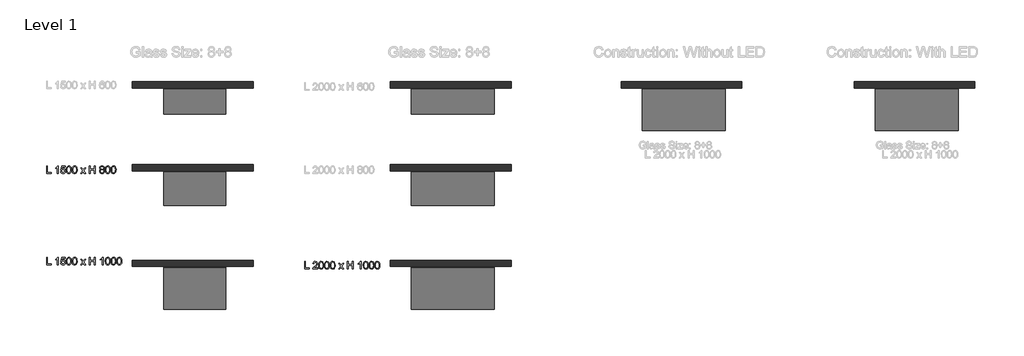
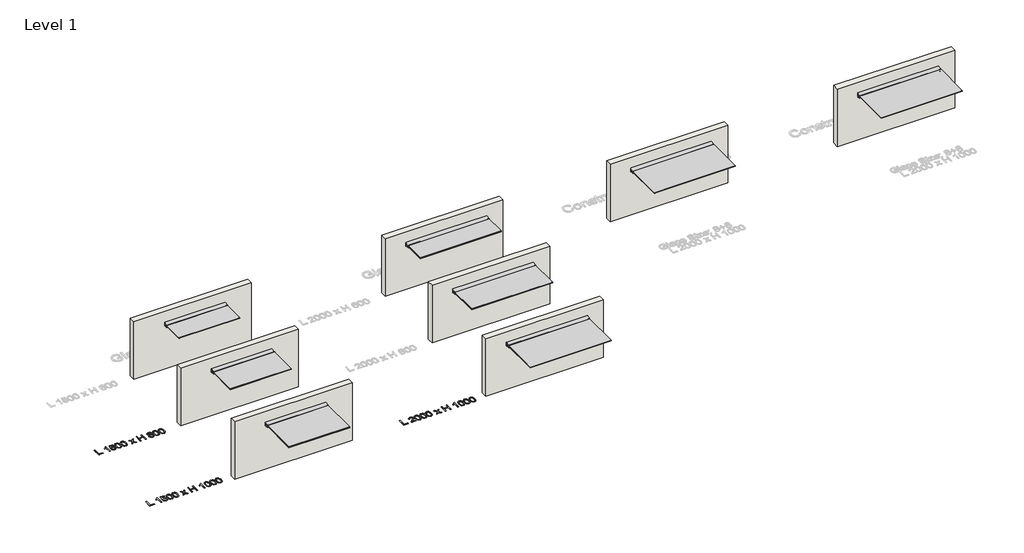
# One storey, part 1 of 6: 11 proxies, 8 walls.
"""IFC4 building model written with IfcOpenShell, lengths in millimetres."""

from ifc_helpers import new_model, si_unit, origin, origin_with_axes, place, context, project, spatial, polyline, outline, extrude, transform, mapped, element, save
from components import glass_8_8_01085232, glass_8_8_e84e2e7e, glass_8_8_7e68fb23, glass_8_8_ba4766a3, glass_8_8_bdc9742d, glass_8_8_5efa4668, glass_8_8_led_c3ab43e4

model = new_model("IFC4")

# Units and contexts
model_context = context("Model", 3, world=origin())
ifc_project = project(units=[si_unit("LENGTHUNIT", "METRE", prefix="MILLI")], contexts=[model_context])

# Site, building, storey
site = spatial("IfcSite", under=ifc_project)
building = spatial("IfcBuilding", under=site)
storey = spatial("IfcBuildingStorey", under=building, Name="Level 1", Elevation=0.0)

# Proxies
placement = place(None, origin())
element("IfcBuildingElementProxy", 1, Name="600mm Arial 3", ObjectType="600mm Arial 3", at=placement, inside=storey, context=model_context, shape_type="SweptSolid", body=[
    extrude(outline(polyline([(2272.1620309, -1499.2688788), (2272.1620309, -1318.4475205), (2294.7647007, -1318.4475205), (2294.7647007, -1476.666209), (2385.1753798, -1476.666209), (2385.1753798, -1499.2688788), (2272.1620309, -1499.2688788)])), origin_with_axes(), (0.0, 0.0, 1.0), 5.0),
    extrude(outline(polyline([(2557.5207369, -1499.2688788), (2534.9180672, -1499.2688788), (2534.9180672, -1358.3553594), (2513.507335, -1373.6077469), (2489.7127276, -1385.0194464), (2489.7127276, -1363.6528601), (2522.8441801, -1342.507003), (2542.9526099, -1318.4475205), (2557.5207369, -1318.4475205), (2557.5207369, -1499.2688788)])), origin_with_axes(), (0.0, 0.0, 1.0), 5.0),
    extrude(outline(polyline([(2611.2020777, -1451.2382055), (2633.8047475, -1448.4128718), (2637.9544564, -1461.9821992), (2645.194374, -1471.6998021), (2655.4913911, -1477.5436076), (2668.8123981, -1479.4915427), (2685.0139212, -1476.7820918), (2697.154027, -1468.6537392), (2704.7360749, -1456.0445838), (2707.2634243, -1439.8927248), (2704.8961036, -1424.6844831), (2697.7941417, -1413.0520544), (2685.9023562, -1405.6686628), (2669.1655648, -1403.2075322), (2649.32201, -1407.1365119), (2636.6300812, -1417.3342008), (2614.0274114, -1414.5088671), (2633.8047475, -1321.2728543), (2721.3900929, -1321.2728543), (2721.3900929, -1343.875524), (2652.081125, -1343.875524), (2642.3690403, -1393.6720309), (2658.5153811, -1383.8716546), (2675.434274, -1380.6048624), (2696.5580582, -1384.6552432), (2714.1060294, -1396.8063855), (2725.9260779, -1415.3255651), (2729.866094, -1438.4800579), (2726.3233904, -1461.0827277), (2715.6952796, -1480.4186054), (2695.3440476, -1496.6753107), (2668.7241064, -1502.0942125), (2646.5242674, -1498.6122094), (2628.8383405, -1488.1662002), (2616.7147894, -1471.9701953), (2611.2020777, -1451.2382055)])), origin_with_axes(), (0.0, 0.0, 1.0), 5.0),
    extrude(outline(polyline([(2749.6434301, -1410.3150124), (2751.3044173, -1381.3718964), (2756.2873789, -1358.2891406), (2764.5426509, -1340.7135783), (2776.0205692, -1328.2920427), (2790.8039071, -1320.9086511), (2808.9754383, -1318.4475205), (2835.3746503, -1324.2747713), (2845.8041048, -1331.3877697), (2853.6068819, -1341.0722632), (2864.2018834, -1367.8246419), (2868.3074465, -1410.3150124), (2866.6630139, -1439.0925814), (2861.7297164, -1462.1201549), (2853.5241085, -1479.7122719), (2842.0627449, -1492.1834716), (2827.2462976, -1499.6165273), (2808.9754383, -1502.0942125), (2785.4898517, -1497.7899932), (2767.6549326, -1484.8773351), (2759.7749002, -1471.2611028), (2754.1463057, -1454.2953049), (2749.6434301, -1410.3150124)]), holes=[polyline([(2772.2460999, -1410.2708665), (2774.8948502, -1445.824822), (2782.8411013, -1466.4023014), (2794.6721863, -1476.2192324), (2808.9754383, -1479.4915427), (2823.2786903, -1476.2081959), (2835.1097752, -1466.3581555), (2843.0560263, -1445.7696397), (2845.7047767, -1410.2708665), (2843.144318, -1375.5170544), (2835.4629419, -1354.7795464), (2823.6539299, -1344.4825293), (2808.7105632, -1341.0501903), (2794.5618217, -1344.0741803), (2783.1942681, -1353.1461503), (2774.9831419, -1375.1749242), (2772.2460999, -1410.2708665)])]), origin_with_axes(), (0.0, 0.0, 1.0), 5.0),
    extrude(outline(polyline([(2888.0847825, -1410.3150124), (2889.7457697, -1381.3718964), (2894.7287314, -1358.2891406), (2902.9840033, -1340.7135783), (2914.4619216, -1328.2920427), (2929.2452596, -1320.9086511), (2947.4167907, -1318.4475205), (2973.8160027, -1324.2747713), (2984.2454572, -1331.3877697), (2992.0482344, -1341.0722632), (3002.6432358, -1367.8246419), (3006.7487989, -1410.3150124), (3005.1043664, -1439.0925814), (3000.1710688, -1462.1201549), (2991.9654609, -1479.7122719), (2980.5040974, -1492.1834716), (2965.68765, -1499.6165273), (2947.4167907, -1502.0942125), (2923.9312041, -1497.7899932), (2906.096285, -1484.8773351), (2898.2162527, -1471.2611028), (2892.5876581, -1454.2953049), (2888.0847825, -1410.3150124)]), holes=[polyline([(2910.6874523, -1410.2708665), (2913.3362027, -1445.824822), (2921.2824538, -1466.4023014), (2933.1135387, -1476.2192324), (2947.4167907, -1479.4915427), (2961.7200427, -1476.2081959), (2973.5511276, -1466.3581555), (2981.4973787, -1445.7696397), (2984.1461291, -1410.2708665), (2981.5856704, -1375.5170544), (2973.9042944, -1354.7795464), (2962.0952823, -1344.4825293), (2947.1519157, -1341.0501903), (2933.0031741, -1344.0741803), (2921.6356205, -1353.1461503), (2913.4244944, -1375.1749242), (2910.6874523, -1410.2708665)])]), origin_with_axes(), (0.0, 0.0, 1.0), 5.0),
    extrude(outline(polyline([(3088.6834769, -1499.2688788), (3136.9790252, -1432.4762238), (3091.5088106, -1366.4781938), (3118.614356, -1366.4781938), (3140.5548382, -1398.307344), (3150.8408188, -1413.2727836), (3159.7582783, -1401.0002402), (3184.7448234, -1366.4781938), (3211.9386605, -1366.4781938), (3164.1728623, -1432.5203696), (3210.1728269, -1499.2688788), (3183.0231357, -1499.2688788), (3155.2995485, -1459.0961649), (3150.2669228, -1451.7238097), (3115.8773139, -1499.2688788), (3088.6834769, -1499.2688788)])), origin_with_axes(), (0.0, 0.0, 1.0), 5.0),
    extrude(outline(polyline([(3303.4088398, -1499.2688788), (3303.4088398, -1318.4475205), (3326.0115096, -1318.4475205), (3326.0115096, -1391.9061973), (3422.0728562, -1391.9061973), (3422.0728562, -1318.4475205), (3444.6755259, -1318.4475205), (3444.6755259, -1499.2688788), (3422.0728562, -1499.2688788), (3422.0728562, -1414.5088671), (3326.0115096, -1414.5088671), (3326.0115096, -1499.2688788), (3303.4088398, -1499.2688788)])), origin_with_axes(), (0.0, 0.0, 1.0), 5.0),
    extrude(outline(polyline([(3579.3203362, -1399.6758651), (3567.218858, -1393.7161767), (3558.7263021, -1385.6374881), (3553.7102311, -1375.6053461), (3552.0382074, -1363.7852976), (3555.6802392, -1346.1159254), (3566.6063344, -1331.514689), (3583.5914461, -1321.7143126), (3605.4105273, -1318.4475205), (3627.3620459, -1321.7915679), (3644.5678868, -1331.8237099), (3655.6926384, -1346.6567119), (3659.4008889, -1364.4033394), (3657.7509381, -1375.84263), (3652.8010859, -1385.7037069), (3644.4961499, -1393.7327314), (3632.7809477, -1399.6758651), (3646.6924054, -1406.8440457), (3656.8183573, -1417.4004196), (3662.9932566, -1430.8373095), (3665.0515563, -1446.6470382), (3660.9680662, -1468.2564266), (3648.7175958, -1486.1134187), (3629.8011036, -1498.0990141), (3605.7195482, -1502.0942125), (3581.6379928, -1498.0824594), (3562.7215006, -1486.0471999), (3550.4710301, -1468.0191427), (3546.38754, -1446.0289965), (3548.5286132, -1429.6067442), (3554.9518328, -1416.0981173), (3565.3261051, -1405.9666472), (3579.3203362, -1399.6758651)]), holes=[polyline([(3574.6408772, -1364.4474852), (3576.6439947, -1374.3140803), (3582.6533471, -1382.1941127), (3592.492351, -1387.3591759), (3605.9844232, -1389.0808636), (3619.1619563, -1387.3702123), (3628.851968, -1382.2382585), (3634.8116563, -1374.6231012), (3636.7982191, -1365.4628395), (3634.7454376, -1355.9549294), (3628.587093, -1348.0914517), (3618.7646437, -1342.8105057), (3605.7195482, -1341.0501903), (3592.5916792, -1342.7718781), (3582.7857846, -1347.9369413), (3576.677104, -1355.5079527), (3574.6408772, -1364.4474852)]), polyline([(3568.9902098, -1445.2343713), (3572.764679, -1462.2525924), (3577.9904428, -1469.5532106), (3586.1187955, -1474.9886671), (3605.8961315, -1479.4915427), (3621.2809566, -1477.1242221), (3632.8250936, -1470.0222602), (3640.0429383, -1459.2672301), (3642.4488866, -1445.9407048), (3639.9656831, -1432.3879321), (3632.5160727, -1421.3956181), (3620.7070606, -1414.1115546), (3605.1456522, -1411.6835334), (3589.9760382, -1414.0784452), (3578.547784, -1421.2631805), (3571.3796033, -1432.0458018), (3568.9902098, -1445.2343713)])]), origin_with_axes(), (0.0, 0.0, 1.0), 5.0),
    extrude(outline(polyline([(3684.8288924, -1410.3150124), (3686.4898796, -1381.3718964), (3691.4728412, -1358.2891406), (3699.7281132, -1340.7135783), (3711.2060315, -1328.2920427), (3725.9893694, -1320.9086511), (3744.1609006, -1318.4475205), (3770.5601126, -1324.2747713), (3780.9895671, -1331.3877697), (3788.7923442, -1341.0722632), (3799.3873457, -1367.8246419), (3803.4929088, -1410.3150124), (3801.8484762, -1439.0925814), (3796.9151787, -1462.1201549), (3788.7095708, -1479.7122719), (3777.2482072, -1492.1834716), (3762.4317599, -1499.6165273), (3744.1609006, -1502.0942125), (3720.675314, -1497.7899932), (3702.8403949, -1484.8773351), (3694.9603625, -1471.2611028), (3689.331768, -1454.2953049), (3684.8288924, -1410.3150124)]), holes=[polyline([(3707.4315622, -1410.2708665), (3710.0803125, -1445.824822), (3718.0265636, -1466.4023014), (3729.8576486, -1476.2192324), (3744.1609006, -1479.4915427), (3758.4641526, -1476.2081959), (3770.2952375, -1466.3581555), (3778.2414886, -1445.7696397), (3780.890239, -1410.2708665), (3778.3297803, -1375.5170544), (3770.6484042, -1354.7795464), (3758.8393922, -1344.4825293), (3743.8960255, -1341.0501903), (3729.747284, -1344.0741803), (3718.3797304, -1353.1461503), (3710.1686042, -1375.1749242), (3707.4315622, -1410.2708665)])]), origin_with_axes(), (0.0, 0.0, 1.0), 5.0),
    extrude(outline(polyline([(3823.2702448, -1410.3150124), (3824.931232, -1381.3718964), (3829.9141937, -1358.2891406), (3838.1694656, -1340.7135783), (3849.6473839, -1328.2920427), (3864.4307219, -1320.9086511), (3882.602253, -1318.4475205), (3909.001465, -1324.2747713), (3919.4309195, -1331.3877697), (3927.2336967, -1341.0722632), (3937.8286981, -1367.8246419), (3941.9342612, -1410.3150124), (3940.2898287, -1439.0925814), (3935.3565311, -1462.1201549), (3927.1509232, -1479.7122719), (3915.6895597, -1492.1834716), (3900.8731123, -1499.6165273), (3882.602253, -1502.0942125), (3859.1166664, -1497.7899932), (3841.2817473, -1484.8773351), (3833.401715, -1471.2611028), (3827.7731204, -1454.2953049), (3823.2702448, -1410.3150124)]), holes=[polyline([(3845.8729146, -1410.2708665), (3848.521665, -1445.824822), (3856.4679161, -1466.4023014), (3868.299001, -1476.2192324), (3882.602253, -1479.4915427), (3896.905505, -1476.2081959), (3908.7365899, -1466.3581555), (3916.682841, -1445.7696397), (3919.3315914, -1410.2708665), (3916.7711327, -1375.5170544), (3909.0897567, -1354.7795464), (3897.2807446, -1344.4825293), (3882.337378, -1341.0501903), (3868.1886364, -1344.0741803), (3856.8210828, -1353.1461503), (3848.6099567, -1375.1749242), (3845.8729146, -1410.2708665)])]), origin_with_axes(), (0.0, 0.0, 1.0), 5.0),
])
element("IfcBuildingElementProxy", 2, Name="600mm Arial 3", ObjectType="600mm Arial 3", at=placement, inside=storey, context=model_context, shape_type="SweptSolid", body=[
    extrude(outline(polyline([(2272.1620309, -3699.2687729), (2272.1620309, -3518.4474146), (2294.7647007, -3518.4474146), (2294.7647007, -3676.6661031), (2385.1753798, -3676.6661031), (2385.1753798, -3699.2687729), (2272.1620309, -3699.2687729)])), origin_with_axes(), (0.0, 0.0, 1.0), 5.0),
    extrude(outline(polyline([(2557.5207369, -3699.2687729), (2534.9180672, -3699.2687729), (2534.9180672, -3558.3552534), (2513.507335, -3573.607641), (2489.7127276, -3585.0193404), (2489.7127276, -3563.6527542), (2522.8441801, -3542.5068971), (2542.9526099, -3518.4474146), (2557.5207369, -3518.4474146), (2557.5207369, -3699.2687729)])), origin_with_axes(), (0.0, 0.0, 1.0), 5.0),
    extrude(outline(polyline([(2611.2020777, -3651.2380996), (2633.8047475, -3648.4127659), (2637.9544564, -3661.9820933), (2645.194374, -3671.6996962), (2655.4913911, -3677.5435016), (2668.8123981, -3679.4914368), (2685.0139212, -3676.7819859), (2697.154027, -3668.6536332), (2704.7360749, -3656.0444778), (2707.2634243, -3639.8926188), (2704.8961036, -3624.6843772), (2697.7941417, -3613.0519485), (2685.9023562, -3605.6685568), (2669.1655648, -3603.2074263), (2649.32201, -3607.136406), (2636.6300812, -3617.3340949), (2614.0274114, -3614.5087612), (2633.8047475, -3521.2727483), (2721.3900929, -3521.2727483), (2721.3900929, -3543.8754181), (2652.081125, -3543.8754181), (2642.3690403, -3593.671925), (2658.5153811, -3583.8715486), (2675.434274, -3580.6047565), (2696.5580582, -3584.6551373), (2714.1060294, -3596.8062796), (2725.9260779, -3615.3254592), (2729.866094, -3638.479952), (2726.3233904, -3661.0826218), (2715.6952796, -3680.4184994), (2695.3440476, -3696.6752048), (2668.7241064, -3702.0941066), (2646.5242674, -3698.6121035), (2628.8383405, -3688.1660943), (2616.7147894, -3671.9700894), (2611.2020777, -3651.2380996)])), origin_with_axes(), (0.0, 0.0, 1.0), 5.0),
    extrude(outline(polyline([(2749.6434301, -3610.3149064), (2751.3044173, -3581.3717905), (2756.2873789, -3558.2890347), (2764.5426509, -3540.7134724), (2776.0205692, -3528.2919368), (2790.8039071, -3520.9085451), (2808.9754383, -3518.4474146), (2835.3746503, -3524.2746654), (2845.8041048, -3531.3876638), (2853.6068819, -3541.0721573), (2864.2018834, -3567.824536), (2868.3074465, -3610.3149064), (2866.6630139, -3639.0924755), (2861.7297164, -3662.120049), (2853.5241085, -3679.712166), (2842.0627449, -3692.1833656), (2827.2462976, -3699.6164214), (2808.9754383, -3702.0941066), (2785.4898517, -3697.7898873), (2767.6549326, -3684.8772292), (2759.7749002, -3671.2609969), (2754.1463057, -3654.295199), (2749.6434301, -3610.3149064)]), holes=[polyline([(2772.2460999, -3610.2707606), (2774.8948502, -3645.824716), (2782.8411013, -3666.4021954), (2794.6721863, -3676.2191265), (2808.9754383, -3679.4914368), (2823.2786903, -3676.20809), (2835.1097752, -3666.3580496), (2843.0560263, -3645.7695337), (2845.7047767, -3610.2707606), (2843.144318, -3575.5169485), (2835.4629419, -3554.7794404), (2823.6539299, -3544.4824234), (2808.7105632, -3541.0500844), (2794.5618217, -3544.0740744), (2783.1942681, -3553.1460444), (2774.9831419, -3575.1748183), (2772.2460999, -3610.2707606)])]), origin_with_axes(), (0.0, 0.0, 1.0), 5.0),
    extrude(outline(polyline([(2888.0847825, -3610.3149064), (2889.7457697, -3581.3717905), (2894.7287314, -3558.2890347), (2902.9840033, -3540.7134724), (2914.4619216, -3528.2919368), (2929.2452596, -3520.9085451), (2947.4167907, -3518.4474146), (2973.8160027, -3524.2746654), (2984.2454572, -3531.3876638), (2992.0482344, -3541.0721573), (3002.6432358, -3567.824536), (3006.7487989, -3610.3149064), (3005.1043664, -3639.0924755), (3000.1710688, -3662.120049), (2991.9654609, -3679.712166), (2980.5040974, -3692.1833656), (2965.68765, -3699.6164214), (2947.4167907, -3702.0941066), (2923.9312041, -3697.7898873), (2906.096285, -3684.8772292), (2898.2162527, -3671.2609969), (2892.5876581, -3654.295199), (2888.0847825, -3610.3149064)]), holes=[polyline([(2910.6874523, -3610.2707606), (2913.3362027, -3645.824716), (2921.2824538, -3666.4021954), (2933.1135387, -3676.2191265), (2947.4167907, -3679.4914368), (2961.7200427, -3676.20809), (2973.5511276, -3666.3580496), (2981.4973787, -3645.7695337), (2984.1461291, -3610.2707606), (2981.5856704, -3575.5169485), (2973.9042944, -3554.7794404), (2962.0952823, -3544.4824234), (2947.1519157, -3541.0500844), (2933.0031741, -3544.0740744), (2921.6356205, -3553.1460444), (2913.4244944, -3575.1748183), (2910.6874523, -3610.2707606)])]), origin_with_axes(), (0.0, 0.0, 1.0), 5.0),
    extrude(outline(polyline([(3088.6834769, -3699.2687729), (3136.9790252, -3632.4761178), (3091.5088106, -3566.4780879), (3118.614356, -3566.4780879), (3140.5548382, -3598.3072381), (3150.8408188, -3613.2726777), (3159.7582783, -3601.0001343), (3184.7448234, -3566.4780879), (3211.9386605, -3566.4780879), (3164.1728623, -3632.5202637), (3210.1728269, -3699.2687729), (3183.0231357, -3699.2687729), (3155.2995485, -3659.096059), (3150.2669228, -3651.7237038), (3115.8773139, -3699.2687729), (3088.6834769, -3699.2687729)])), origin_with_axes(), (0.0, 0.0, 1.0), 5.0),
    extrude(outline(polyline([(3303.4088398, -3699.2687729), (3303.4088398, -3518.4474146), (3326.0115096, -3518.4474146), (3326.0115096, -3591.9060914), (3422.0728562, -3591.9060914), (3422.0728562, -3518.4474146), (3444.6755259, -3518.4474146), (3444.6755259, -3699.2687729), (3422.0728562, -3699.2687729), (3422.0728562, -3614.5087612), (3326.0115096, -3614.5087612), (3326.0115096, -3699.2687729), (3303.4088398, -3699.2687729)])), origin_with_axes(), (0.0, 0.0, 1.0), 5.0),
    extrude(outline(polyline([(3631.1475517, -3699.2687729), (3608.5448819, -3699.2687729), (3608.5448819, -3558.3552534), (3587.1341498, -3573.607641), (3563.3395423, -3585.0193404), (3563.3395423, -3563.6527542), (3596.4709948, -3542.5068971), (3616.5794247, -3518.4474146), (3631.1475517, -3518.4474146), (3631.1475517, -3699.2687729)])), origin_with_axes(), (0.0, 0.0, 1.0), 5.0),
    extrude(outline(polyline([(3684.8288924, -3610.3149064), (3686.4898796, -3581.3717905), (3691.4728412, -3558.2890347), (3699.7281132, -3540.7134724), (3711.2060315, -3528.2919368), (3725.9893694, -3520.9085451), (3744.1609006, -3518.4474146), (3770.5601126, -3524.2746654), (3780.9895671, -3531.3876638), (3788.7923442, -3541.0721573), (3799.3873457, -3567.824536), (3803.4929088, -3610.3149064), (3801.8484762, -3639.0924755), (3796.9151787, -3662.120049), (3788.7095708, -3679.712166), (3777.2482072, -3692.1833656), (3762.4317599, -3699.6164214), (3744.1609006, -3702.0941066), (3720.675314, -3697.7898873), (3702.8403949, -3684.8772292), (3694.9603625, -3671.2609969), (3689.331768, -3654.295199), (3684.8288924, -3610.3149064)]), holes=[polyline([(3707.4315622, -3610.2707606), (3710.0803125, -3645.824716), (3718.0265636, -3666.4021954), (3729.8576486, -3676.2191265), (3744.1609006, -3679.4914368), (3758.4641526, -3676.20809), (3770.2952375, -3666.3580496), (3778.2414886, -3645.7695337), (3780.890239, -3610.2707606), (3778.3297803, -3575.5169485), (3770.6484042, -3554.7794404), (3758.8393922, -3544.4824234), (3743.8960255, -3541.0500844), (3729.747284, -3544.0740744), (3718.3797304, -3553.1460444), (3710.1686042, -3575.1748183), (3707.4315622, -3610.2707606)])]), origin_with_axes(), (0.0, 0.0, 1.0), 5.0),
    extrude(outline(polyline([(3823.2702448, -3610.3149064), (3824.931232, -3581.3717905), (3829.9141937, -3558.2890347), (3838.1694656, -3540.7134724), (3849.6473839, -3528.2919368), (3864.4307219, -3520.9085451), (3882.602253, -3518.4474146), (3909.001465, -3524.2746654), (3919.4309195, -3531.3876638), (3927.2336967, -3541.0721573), (3937.8286981, -3567.824536), (3941.9342612, -3610.3149064), (3940.2898287, -3639.0924755), (3935.3565311, -3662.120049), (3927.1509232, -3679.712166), (3915.6895597, -3692.1833656), (3900.8731123, -3699.6164214), (3882.602253, -3702.0941066), (3859.1166664, -3697.7898873), (3841.2817473, -3684.8772292), (3833.401715, -3671.2609969), (3827.7731204, -3654.295199), (3823.2702448, -3610.3149064)]), holes=[polyline([(3845.8729146, -3610.2707606), (3848.521665, -3645.824716), (3856.4679161, -3666.4021954), (3868.299001, -3676.2191265), (3882.602253, -3679.4914368), (3896.905505, -3676.20809), (3908.7365899, -3666.3580496), (3916.682841, -3645.7695337), (3919.3315914, -3610.2707606), (3916.7711327, -3575.5169485), (3909.0897567, -3554.7794404), (3897.2807446, -3544.4824234), (3882.337378, -3541.0500844), (3868.1886364, -3544.0740744), (3856.8210828, -3553.1460444), (3848.6099567, -3575.1748183), (3845.8729146, -3610.2707606)])]), origin_with_axes(), (0.0, 0.0, 1.0), 5.0),
    extrude(outline(polyline([(3961.7115972, -3610.3149064), (3963.3725845, -3581.3717905), (3968.3555461, -3558.2890347), (3976.6108181, -3540.7134724), (3988.0887363, -3528.2919368), (4002.8720743, -3520.9085451), (4021.0436054, -3518.4474146), (4047.4428174, -3524.2746654), (4057.872272, -3531.3876638), (4065.6750491, -3541.0721573), (4076.2700505, -3567.824536), (4080.3756136, -3610.3149064), (4078.7311811, -3639.0924755), (4073.7978835, -3662.120049), (4065.5922756, -3679.712166), (4054.1309121, -3692.1833656), (4039.3144647, -3699.6164214), (4021.0436054, -3702.0941066), (3997.5580189, -3697.7898873), (3979.7230997, -3684.8772292), (3971.8430674, -3671.2609969), (3966.2144729, -3654.295199), (3961.7115972, -3610.3149064)]), holes=[polyline([(3984.314267, -3610.2707606), (3986.9630174, -3645.824716), (3994.9092685, -3666.4021954), (4006.7403535, -3676.2191265), (4021.0436054, -3679.4914368), (4035.3468574, -3676.20809), (4047.1779424, -3666.3580496), (4055.1241935, -3645.7695337), (4057.7729438, -3610.2707606), (4055.2124851, -3575.5169485), (4047.5311091, -3554.7794404), (4035.722097, -3544.4824234), (4020.7787304, -3541.0500844), (4006.6299889, -3544.0740744), (3995.2624352, -3553.1460444), (3987.0513091, -3575.1748183), (3984.314267, -3610.2707606)])]), origin_with_axes(), (0.0, 0.0, 1.0), 5.0),
])
element("IfcBuildingElementProxy", 3, Name="600mm Arial 3", ObjectType="600mm Arial 3", at=placement, inside=storey, context=model_context, shape_type="SweptSolid", body=[
    extrude(outline(polyline([(8472.1620309, -3799.2687729), (8472.1620309, -3618.4474146), (8494.7647007, -3618.4474146), (8494.7647007, -3776.6661031), (8585.1753798, -3776.6661031), (8585.1753798, -3799.2687729), (8472.1620309, -3799.2687729)])), origin_with_axes(), (0.0, 0.0, 1.0), 5.0),
    extrude(outline(polyline([(8788.5994079, -3776.6661031), (8788.5994079, -3799.2687729), (8669.9353915, -3799.2687729), (8672.3634127, -3783.6852916), (8686.1148417, -3759.6920278), (8714.4343977, -3733.4914721), (8753.4372468, -3695.8350711), (8760.737865, -3682.8561943), (8763.1714044, -3670.2304842), (8760.8703025, -3658.9125947), (8753.9669969, -3649.5040126), (8743.3554407, -3643.1635664), (8729.9295873, -3641.0500844), (8715.8305098, -3643.1139024), (8704.8768234, -3649.3053564), (8697.8079709, -3659.1388421), (8695.363395, -3672.1287553), (8672.7607252, -3669.3034216), (8678.2403276, -3647.4401946), (8690.0879672, -3631.4704372), (8707.6856025, -3621.7031703), (8730.4151915, -3618.4474146), (8753.3103275, -3622.0673734), (8770.8748534, -3632.9272499), (8782.049269, -3649.1508459), (8785.7740742, -3668.8619632), (8781.7568028, -3690.2947683), (8768.4026864, -3712.4559796), (8736.0217131, -3743.424286), (8710.0198137, -3765.1661119), (8699.8221248, -3776.6661031), (8788.5994079, -3776.6661031)])), origin_with_axes(), (0.0, 0.0, 1.0), 5.0),
    extrude(outline(polyline([(8811.2020777, -3710.3149064), (8812.8630649, -3681.3717905), (8817.8460265, -3658.2890347), (8826.1012985, -3640.7134724), (8837.5792167, -3628.2919368), (8852.3625547, -3620.9085451), (8870.5340859, -3618.4474146), (8896.9332978, -3624.2746654), (8907.3627524, -3631.3876638), (8915.1655295, -3641.0721573), (8925.760531, -3667.824536), (8929.866094, -3710.3149064), (8928.2216615, -3739.0924755), (8923.288364, -3762.120049), (8915.0827561, -3779.712166), (8903.6213925, -3792.1833656), (8888.8049451, -3799.6164214), (8870.5340859, -3802.0941066), (8847.0484993, -3797.7898873), (8829.2135802, -3784.8772292), (8821.3335478, -3771.2609969), (8815.7049533, -3754.295199), (8811.2020777, -3710.3149064)]), holes=[polyline([(8833.8047475, -3710.2707606), (8836.4534978, -3745.824716), (8844.3997489, -3766.4021954), (8856.2308339, -3776.2191265), (8870.5340859, -3779.4914368), (8884.8373378, -3776.20809), (8896.6684228, -3766.3580496), (8904.6146739, -3745.7695337), (8907.2634243, -3710.2707606), (8904.7029656, -3675.5169485), (8897.0215895, -3654.7794404), (8885.2125775, -3644.4824234), (8870.2692108, -3641.0500844), (8856.1204693, -3644.0740744), (8844.7529156, -3653.1460444), (8836.5417895, -3675.1748183), (8833.8047475, -3710.2707606)])]), origin_with_axes(), (0.0, 0.0, 1.0), 5.0),
    extrude(outline(polyline([(8949.6434301, -3710.3149064), (8951.3044173, -3681.3717905), (8956.2873789, -3658.2890347), (8964.5426509, -3640.7134724), (8976.0205692, -3628.2919368), (8990.8039071, -3620.9085451), (9008.9754383, -3618.4474146), (9035.3746503, -3624.2746654), (9045.8041048, -3631.3876638), (9053.6068819, -3641.0721573), (9064.2018834, -3667.824536), (9068.3074465, -3710.3149064), (9066.6630139, -3739.0924755), (9061.7297164, -3762.120049), (9053.5241085, -3779.712166), (9042.0627449, -3792.1833656), (9027.2462976, -3799.6164214), (9008.9754383, -3802.0941066), (8985.4898517, -3797.7898873), (8967.6549326, -3784.8772292), (8959.7749002, -3771.2609969), (8954.1463057, -3754.295199), (8949.6434301, -3710.3149064)]), holes=[polyline([(8972.2460999, -3710.2707606), (8974.8948502, -3745.824716), (8982.8411013, -3766.4021954), (8994.6721863, -3776.2191265), (9008.9754383, -3779.4914368), (9023.2786903, -3776.20809), (9035.1097752, -3766.3580496), (9043.0560263, -3745.7695337), (9045.7047767, -3710.2707606), (9043.144318, -3675.5169485), (9035.4629419, -3654.7794404), (9023.6539299, -3644.4824234), (9008.7105632, -3641.0500844), (8994.5618217, -3644.0740744), (8983.1942681, -3653.1460444), (8974.9831419, -3675.1748183), (8972.2460999, -3710.2707606)])]), origin_with_axes(), (0.0, 0.0, 1.0), 5.0),
    extrude(outline(polyline([(9088.0847825, -3710.3149064), (9089.7457697, -3681.3717905), (9094.7287314, -3658.2890347), (9102.9840033, -3640.7134724), (9114.4619216, -3628.2919368), (9129.2452596, -3620.9085451), (9147.4167907, -3618.4474146), (9173.8160027, -3624.2746654), (9184.2454572, -3631.3876638), (9192.0482344, -3641.0721573), (9202.6432358, -3667.824536), (9206.7487989, -3710.3149064), (9205.1043664, -3739.0924755), (9200.1710688, -3762.120049), (9191.9654609, -3779.712166), (9180.5040974, -3792.1833656), (9165.68765, -3799.6164214), (9147.4167907, -3802.0941066), (9123.9312041, -3797.7898873), (9106.096285, -3784.8772292), (9098.2162527, -3771.2609969), (9092.5876581, -3754.295199), (9088.0847825, -3710.3149064)]), holes=[polyline([(9110.6874523, -3710.2707606), (9113.3362027, -3745.824716), (9121.2824538, -3766.4021954), (9133.1135387, -3776.2191265), (9147.4167907, -3779.4914368), (9161.7200427, -3776.20809), (9173.5511276, -3766.3580496), (9181.4973787, -3745.7695337), (9184.1461291, -3710.2707606), (9181.5856704, -3675.5169485), (9173.9042944, -3654.7794404), (9162.0952823, -3644.4824234), (9147.1519157, -3641.0500844), (9133.0031741, -3644.0740744), (9121.6356205, -3653.1460444), (9113.4244944, -3675.1748183), (9110.6874523, -3710.2707606)])]), origin_with_axes(), (0.0, 0.0, 1.0), 5.0),
    extrude(outline(polyline([(9288.6834769, -3799.2687729), (9336.9790252, -3732.4761178), (9291.5088106, -3666.4780879), (9318.614356, -3666.4780879), (9340.5548382, -3698.3072381), (9350.8408188, -3713.2726777), (9359.7582783, -3701.0001343), (9384.7448234, -3666.4780879), (9411.9386605, -3666.4780879), (9364.1728623, -3732.5202637), (9410.1728269, -3799.2687729), (9383.0231357, -3799.2687729), (9355.2995485, -3759.096059), (9350.2669228, -3751.7237038), (9315.8773139, -3799.2687729), (9288.6834769, -3799.2687729)])), origin_with_axes(), (0.0, 0.0, 1.0), 5.0),
    extrude(outline(polyline([(9503.4088398, -3799.2687729), (9503.4088398, -3618.4474146), (9526.0115096, -3618.4474146), (9526.0115096, -3691.9060914), (9622.0728562, -3691.9060914), (9622.0728562, -3618.4474146), (9644.6755259, -3618.4474146), (9644.6755259, -3799.2687729), (9622.0728562, -3799.2687729), (9622.0728562, -3714.5087612), (9526.0115096, -3714.5087612), (9526.0115096, -3799.2687729), (9503.4088398, -3799.2687729)])), origin_with_axes(), (0.0, 0.0, 1.0), 5.0),
    extrude(outline(polyline([(9831.1475517, -3799.2687729), (9808.5448819, -3799.2687729), (9808.5448819, -3658.3552534), (9787.1341498, -3673.607641), (9763.3395423, -3685.0193404), (9763.3395423, -3663.6527542), (9796.4709948, -3642.5068971), (9816.5794247, -3618.4474146), (9831.1475517, -3618.4474146), (9831.1475517, -3799.2687729)])), origin_with_axes(), (0.0, 0.0, 1.0), 5.0),
    extrude(outline(polyline([(9884.8288924, -3710.3149064), (9886.4898796, -3681.3717905), (9891.4728412, -3658.2890347), (9899.7281132, -3640.7134724), (9911.2060315, -3628.2919368), (9925.9893694, -3620.9085451), (9944.1609006, -3618.4474146), (9970.5601126, -3624.2746654), (9980.9895671, -3631.3876638), (9988.7923442, -3641.0721573), (9999.3873457, -3667.824536), (10003.4929088, -3710.3149064), (10001.8484762, -3739.0924755), (9996.9151787, -3762.120049), (9988.7095708, -3779.712166), (9977.2482072, -3792.1833656), (9962.4317599, -3799.6164214), (9944.1609006, -3802.0941066), (9920.675314, -3797.7898873), (9902.8403949, -3784.8772292), (9894.9603625, -3771.2609969), (9889.331768, -3754.295199), (9884.8288924, -3710.3149064)]), holes=[polyline([(9907.4315622, -3710.2707606), (9910.0803125, -3745.824716), (9918.0265636, -3766.4021954), (9929.8576486, -3776.2191265), (9944.1609006, -3779.4914368), (9958.4641526, -3776.20809), (9970.2952375, -3766.3580496), (9978.2414886, -3745.7695337), (9980.890239, -3710.2707606), (9978.3297803, -3675.5169485), (9970.6484042, -3654.7794404), (9958.8393922, -3644.4824234), (9943.8960255, -3641.0500844), (9929.747284, -3644.0740744), (9918.3797304, -3653.1460444), (9910.1686042, -3675.1748183), (9907.4315622, -3710.2707606)])]), origin_with_axes(), (0.0, 0.0, 1.0), 5.0),
    extrude(outline(polyline([(10023.2702448, -3710.3149064), (10024.931232, -3681.3717905), (10029.9141937, -3658.2890347), (10038.1694656, -3640.7134724), (10049.6473839, -3628.2919368), (10064.4307219, -3620.9085451), (10082.602253, -3618.4474146), (10109.001465, -3624.2746654), (10119.4309195, -3631.3876638), (10127.2336967, -3641.0721573), (10137.8286981, -3667.824536), (10141.9342612, -3710.3149064), (10140.2898287, -3739.0924755), (10135.3565311, -3762.120049), (10127.1509232, -3779.712166), (10115.6895597, -3792.1833656), (10100.8731123, -3799.6164214), (10082.602253, -3802.0941066), (10059.1166664, -3797.7898873), (10041.2817473, -3784.8772292), (10033.401715, -3771.2609969), (10027.7731204, -3754.295199), (10023.2702448, -3710.3149064)]), holes=[polyline([(10045.8729146, -3710.2707606), (10048.521665, -3745.824716), (10056.4679161, -3766.4021954), (10068.299001, -3776.2191265), (10082.602253, -3779.4914368), (10096.905505, -3776.20809), (10108.7365899, -3766.3580496), (10116.682841, -3745.7695337), (10119.3315914, -3710.2707606), (10116.7711327, -3675.5169485), (10109.0897567, -3654.7794404), (10097.2807446, -3644.4824234), (10082.337378, -3641.0500844), (10068.1886364, -3644.0740744), (10056.8210828, -3653.1460444), (10048.6099567, -3675.1748183), (10045.8729146, -3710.2707606)])]), origin_with_axes(), (0.0, 0.0, 1.0), 5.0),
    extrude(outline(polyline([(10161.7115972, -3710.3149064), (10163.3725845, -3681.3717905), (10168.3555461, -3658.2890347), (10176.6108181, -3640.7134724), (10188.0887363, -3628.2919368), (10202.8720743, -3620.9085451), (10221.0436054, -3618.4474146), (10247.4428174, -3624.2746654), (10257.872272, -3631.3876638), (10265.6750491, -3641.0721573), (10276.2700505, -3667.824536), (10280.3756136, -3710.3149064), (10278.7311811, -3739.0924755), (10273.7978835, -3762.120049), (10265.5922756, -3779.712166), (10254.1309121, -3792.1833656), (10239.3144647, -3799.6164214), (10221.0436054, -3802.0941066), (10197.5580189, -3797.7898873), (10179.7230997, -3784.8772292), (10171.8430674, -3771.2609969), (10166.2144729, -3754.295199), (10161.7115972, -3710.3149064)]), holes=[polyline([(10184.314267, -3710.2707606), (10186.9630174, -3745.824716), (10194.9092685, -3766.4021954), (10206.7403535, -3776.2191265), (10221.0436054, -3779.4914368), (10235.3468574, -3776.20809), (10247.1779424, -3766.3580496), (10255.1241935, -3745.7695337), (10257.7729438, -3710.2707606), (10255.2124851, -3675.5169485), (10247.5311091, -3654.7794404), (10235.722097, -3644.4824234), (10220.7787304, -3641.0500844), (10206.6299889, -3644.0740744), (10195.2624352, -3653.1460444), (10187.0513091, -3675.1748183), (10184.314267, -3710.2707606)])]), origin_with_axes(), (0.0, 0.0, 1.0), 5.0),
])
glass_8_8_shape = glass_8_8_01085232(model_context)
element("IfcBuildingElementProxy", 4, Name="Construction_Slope-Glazing_Faraone_Linea-3-Mini : Glass - 8+8", ObjectType="Construction_Slope-Glazing_Faraone_Linea-3-Mini : Glass - 8+8", at=placement, inside=storey, context=model_context, shape_type="MappedRepresentation", body=[
    mapped(glass_8_8_shape, transform((5834.0895564, 558.4638702, 1180.0143575), x_axis=(1.0, 0.0, 0.0), y_axis=(0.0, 0.0, 1.0), z_axis=(0.0, -1.0, 0.0))),
])
glass_8_8_2_shape = glass_8_8_e84e2e7e(model_context)
element("IfcBuildingElementProxy", 5, Name="Construction_Slope-Glazing_Faraone_Linea-3-Mini : Glass - 8+8", ObjectType="Construction_Slope-Glazing_Faraone_Linea-3-Mini : Glass - 8+8", at=placement, inside=storey, context=model_context, shape_type="MappedRepresentation", body=[
    mapped(glass_8_8_2_shape, transform((5834.0895564, -1441.5361298, 1180.0143575), x_axis=(1.0, 0.0, 0.0), y_axis=(0.0, 0.0, 1.0), z_axis=(0.0, -1.0, 0.0))),
])
glass_8_8_3_shape = glass_8_8_7e68fb23(model_context)
element("IfcBuildingElementProxy", 6, Name="Construction_Slope-Glazing_Faraone_Linea-3-Mini : Glass - 8+8", ObjectType="Construction_Slope-Glazing_Faraone_Linea-3-Mini : Glass - 8+8", at=placement, inside=storey, context=model_context, shape_type="MappedRepresentation", body=[
    mapped(glass_8_8_3_shape, transform((5834.0895564, -3741.5360239, 1180.0143575), x_axis=(1.0, 0.0, 0.0), y_axis=(0.0, 0.0, 1.0), z_axis=(0.0, -1.0, 0.0))),
])
glass_8_8_4_shape = glass_8_8_ba4766a3(model_context)
element("IfcBuildingElementProxy", 7, Name="Construction_Slope-Glazing_Faraone_Linea-3-Mini : Glass - 8+8", ObjectType="Construction_Slope-Glazing_Faraone_Linea-3-Mini : Glass - 8+8", at=placement, inside=storey, context=model_context, shape_type="MappedRepresentation", body=[
    mapped(glass_8_8_4_shape, transform((12034.0895564, -1441.5361298, 1180.0143575), x_axis=(1.0, 0.0, 0.0), y_axis=(0.0, 0.0, 1.0), z_axis=(0.0, -1.0, 0.0))),
])
glass_8_8_5_shape = glass_8_8_bdc9742d(model_context)
element("IfcBuildingElementProxy", 8, Name="Construction_Slope-Glazing_Faraone_Linea-3-Mini : Glass - 8+8", ObjectType="Construction_Slope-Glazing_Faraone_Linea-3-Mini : Glass - 8+8", at=placement, inside=storey, context=model_context, shape_type="MappedRepresentation", body=[
    mapped(glass_8_8_5_shape, transform((17582.1126304, 558.4638702, 1180.0143575), x_axis=(1.0, 0.0, 0.0), y_axis=(0.0, 0.0, 1.0), z_axis=(0.0, -1.0, 0.0))),
])
element("IfcBuildingElementProxy", 9, Name="Construction_Slope-Glazing_Faraone_Linea-3-Mini : Glass - 8+8", ObjectType="Construction_Slope-Glazing_Faraone_Linea-3-Mini : Glass - 8+8", at=placement, inside=storey, context=model_context, shape_type="MappedRepresentation", body=[
    mapped(glass_8_8_5_shape, transform((12034.0895564, -3741.5360239, 1180.0143575), x_axis=(1.0, 0.0, 0.0), y_axis=(0.0, 0.0, 1.0), z_axis=(0.0, -1.0, 0.0))),
])
glass_8_8_6_shape = glass_8_8_5efa4668(model_context)
element("IfcBuildingElementProxy", 10, Name="Construction_Slope-Glazing_Faraone_Linea-3-Mini : Glass - 8+8", ObjectType="Construction_Slope-Glazing_Faraone_Linea-3-Mini : Glass - 8+8", at=placement, inside=storey, context=model_context, shape_type="MappedRepresentation", body=[
    mapped(glass_8_8_6_shape, transform((12034.0895564, 558.4638702, 1180.0143575), x_axis=(1.0, 0.0, 0.0), y_axis=(0.0, 0.0, 1.0), z_axis=(0.0, -1.0, 0.0))),
])
glass_8_8_led_shape = glass_8_8_led_c3ab43e4(model_context)
element("IfcBuildingElementProxy", 11, Name="Construction_Slope-Glazing_Faraone_Linea-3-Mini : Glass - 8+8 LED", ObjectType="Construction_Slope-Glazing_Faraone_Linea-3-Mini : Glass - 8+8 LED", at=placement, inside=storey, context=model_context, shape_type="MappedRepresentation", body=[
    mapped(glass_8_8_led_shape, transform((23182.1126304, 558.4638702, 1180.0143575), x_axis=(1.0, 0.0, 0.0), y_axis=(0.0, 0.0, 1.0), z_axis=(0.0, -1.0, 0.0))),
])

# Walls
element("IfcWall", 12, ObjectType="Exterior - Brick on Mtl. Stud", at=placement, inside=storey, context=model_context, shape_type="SweptSolid", body=[
    extrude(outline(polyline([(7234.0895564, 558.4638702), (4334.0895564, 558.4638702), (4334.0895564, 710.4638702), (7234.0895564, 710.4638702), (7234.0895564, 558.4638702)])), origin_with_axes(), (0.0, 0.0, 1.0), 1500.0),
])
element("IfcWall", 13, ObjectType="Exterior - Brick on Mtl. Stud", at=placement, inside=storey, context=model_context, shape_type="SweptSolid", body=[
    extrude(outline(polyline([(7234.0895564, -1441.5361298), (4334.0895564, -1441.5361298), (4334.0895564, -1289.5361298), (7234.0895564, -1289.5361298), (7234.0895564, -1441.5361298)])), origin_with_axes(), (0.0, 0.0, 1.0), 1500.0),
])
element("IfcWall", 14, ObjectType="Exterior - Brick on Mtl. Stud", at=placement, inside=storey, context=model_context, shape_type="SweptSolid", body=[
    extrude(outline(polyline([(7234.0895564, -3741.5360239), (4334.0895564, -3741.5360239), (4334.0895564, -3589.5360239), (7234.0895564, -3589.5360239), (7234.0895564, -3741.5360239)])), origin_with_axes(), (0.0, 0.0, 1.0), 1500.0),
])
element("IfcWall", 15, ObjectType="Exterior - Brick on Mtl. Stud", at=placement, inside=storey, context=model_context, shape_type="SweptSolid", body=[
    extrude(outline(polyline([(13434.0895564, -1441.5361298), (10534.0895564, -1441.5361298), (10534.0895564, -1289.5361298), (13434.0895564, -1289.5361298), (13434.0895564, -1441.5361298)])), origin_with_axes(), (0.0, 0.0, 1.0), 1500.0),
])
element("IfcWall", 16, ObjectType="Exterior - Brick on Mtl. Stud", at=placement, inside=storey, context=model_context, shape_type="SweptSolid", body=[
    extrude(outline(polyline([(18982.1126304, 558.4638702), (16082.1126304, 558.4638702), (16082.1126304, 710.4638702), (18982.1126304, 710.4638702), (18982.1126304, 558.4638702)])), origin_with_axes(), (0.0, 0.0, 1.0), 1500.0),
])
element("IfcWall", 17, ObjectType="Exterior - Brick on Mtl. Stud", at=placement, inside=storey, context=model_context, shape_type="SweptSolid", body=[
    extrude(outline(polyline([(24582.1126304, 558.4638702), (21682.1126304, 558.4638702), (21682.1126304, 710.4638702), (24582.1126304, 710.4638702), (24582.1126304, 558.4638702)])), origin_with_axes(), (0.0, 0.0, 1.0), 1500.0),
])
element("IfcWall", 18, ObjectType="Exterior - Brick on Mtl. Stud", at=placement, inside=storey, context=model_context, shape_type="SweptSolid", body=[
    extrude(outline(polyline([(13434.0895564, 558.4638702), (10534.0895564, 558.4638702), (10534.0895564, 710.4638702), (13434.0895564, 710.4638702), (13434.0895564, 558.4638702)])), origin_with_axes(), (0.0, 0.0, 1.0), 1500.0),
])
element("IfcWall", 19, ObjectType="Exterior - Brick on Mtl. Stud", at=placement, inside=storey, context=model_context, shape_type="SweptSolid", body=[
    extrude(outline(polyline([(13434.0895564, -3741.5360239), (10534.0895564, -3741.5360239), (10534.0895564, -3589.5360239), (13434.0895564, -3589.5360239), (13434.0895564, -3741.5360239)])), origin_with_axes(), (0.0, 0.0, 1.0), 1500.0),
])

save(model, "model.ifc")
